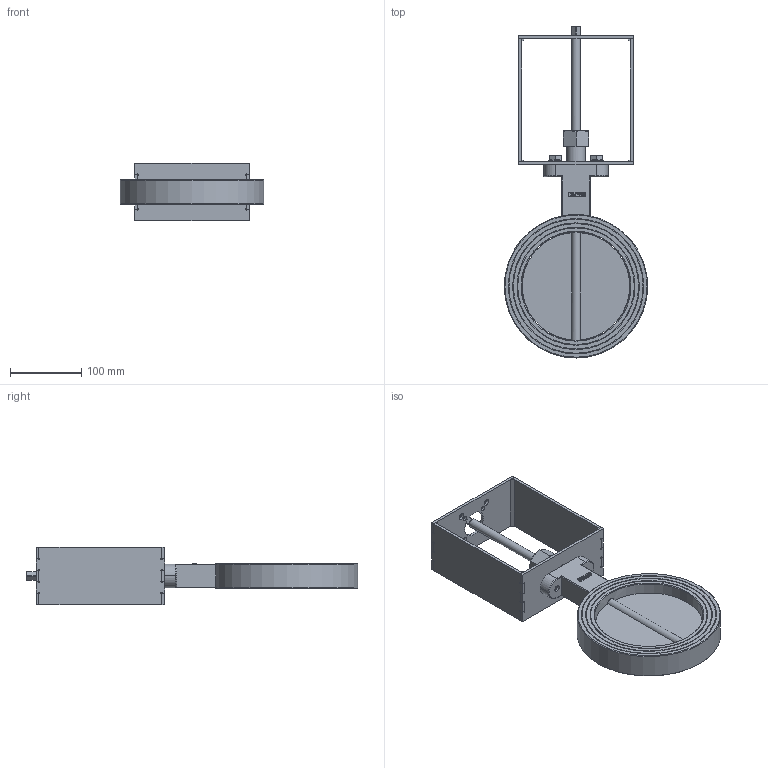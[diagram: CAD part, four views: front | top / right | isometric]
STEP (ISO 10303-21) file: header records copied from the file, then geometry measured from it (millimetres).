
FILE_DESCRIPTION(/* description */ (''),/* implementation_level */ '2;1');
FILE_NAME(/* name */ 'C:\Users\miv\Desktop\Typ 5k DN150\Typ 5k DN150.stp',/* time_stamp */ '2015-09-25T08:19:54+02:00',/* author */ ('Technik-3D'),/* organization */ (''),/* preprocessor_version */ 'ST-DEVELOPER v15.6',/* originating_system */ 'Autodesk Inventor 2015',/* authorisation */ '');
FILE_SCHEMA (('AUTOMOTIVE_DESIGN { 1 0 10303 214 3 1 1 }'));
Length unit declared in the file: millimetre
Products named in the file (14): Gussring DN150 durchschlagend; Konsole F05-07 Gußring_Schweißnähte; Unterteil Konsole F04,05,07 für Gussring; Seitenteil F05, F07, ST; Oberteil Konsole F05, F07; DIN 127 - A 10; ISO 4017 - M10 x 20DIN EN; Konsole F05-07 Gußring; Welle DN150; DN150 Ronde; Graphitbuchse d=12; Stopfbuchse d=12 MS; ISO 49 Kappe T1 3_4; Typ 5k DN150
Bounding box: 200.99 x 464.99 x 80 mm (x, y, z)
Volume: 916391.3 mm3; surface area: 282169.2 mm2
Topology: 18 solids, 18 shells, 401 faces, 985 edges, 646 vertices
Faces by surface type: plane 232, cylinder 92, cone 39, bspline 34, torus 4
Full cylindrical faces by diameter (mm): 7 x4, 8.376 x2, 9 x4, 10 x2, 11 x2, 12 x2, 12.5 x3, 13 x1, 14.63 x2, 17.5 x1, 18 x2, 20 x1, 26.441 x1, 35 x1, 37 x1, 150.5 x1, 152 x1, 163.25 x2, 165.25 x2, 175.5 x2, 177.5 x2, 187.75 x2, 189.75 x2
Entity records: 10451 total; most frequent: CARTESIAN_POINT 2335, ORIENTED_EDGE 1544, DIRECTION 1543, EDGE_CURVE 772, AXIS2_PLACEMENT_3D 543, VERTEX_POINT 537, EDGE_LOOP 465, LINE 457
